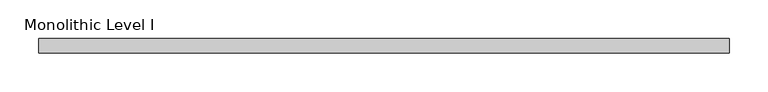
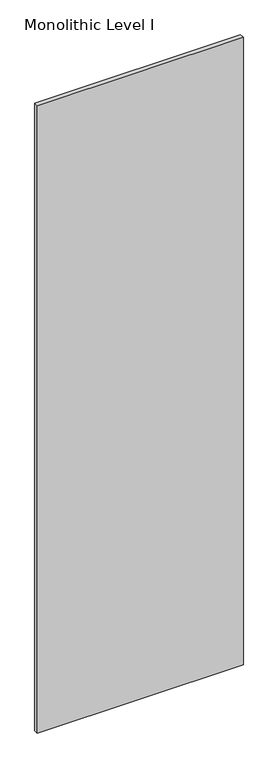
"""IFC4 building model written with IfcOpenShell, lengths in millimetres: proxy geometry, Panel-Fascia-Teknion-Altos-Standard : Monolithic Level I."""

import ifcopenshell
import ifcopenshell.guid

model = None  # the IFC model being written
_history = None  # IfcOwnerHistory: only IFC2X3 demands one
_inside = {}  # id of a spatial element -> (the spatial element, [elements in it])
_under = {}  # id of a project, library or spatial element -> (it, [spatial elements below it])
_declared = {}  # id of a project -> (the project, [libraries it declares])
_typed = {}  # id of a type object -> (the type object, [elements of that type])
_made_of = {}  # id of a material, layer set ... -> (it, [elements and type objects made of it])


def new_model(schema):
    """Start an empty IFC model of exactly this schema.

    Asked for "IFC4X3", IfcOpenShell would pick the latest addendum, in which some entities
    have other attributes; the version numbers below select the first issue.
    IFC2X3 requires an IfcOwnerHistory on every rooted entity: one is made here for all.
    """
    global model, _history
    if schema == "IFC4X3":
        model = ifcopenshell.file(schema_version=(4, 3, 0, 0))
    else:
        model = ifcopenshell.file(schema=schema)
    _inside.clear()
    _under.clear()
    _declared.clear()
    _typed.clear()
    _made_of.clear()
    _history = None
    if model.schema == "IFC2X3":
        org = make("IfcOrganization", Name="unknown")
        user = make(
            "IfcPersonAndOrganization",
            ThePerson=make("IfcPerson", FamilyName="unknown"),
            TheOrganization=org,
        )
        app = make(
            "IfcApplication",
            ApplicationDeveloper=org,
            Version="unknown",
            ApplicationFullName="unknown",
            ApplicationIdentifier="unknown",
        )
        _history = make(
            "IfcOwnerHistory",
            OwningUser=user,
            OwningApplication=app,
            ChangeAction="ADDED",
            CreationDate=0,
        )
    return model


def make(cls, **values):
    """One entity of the class cls with the attributes given. An attribute that is None is left unset."""
    return model.create_entity(
        cls, **{name: value for name, value in values.items() if value is not None}
    )


def rooted(cls, **values):
    """An entity with a GlobalId (a new one), such as an element, a storey or a relation."""
    return make(cls, GlobalId=ifcopenshell.guid.new(), OwnerHistory=_history, **values)


def si_unit(unit_type, name, prefix=None):
    """IfcSIUnit, for example si_unit("LENGTHUNIT", "METRE", prefix="MILLI")."""
    return make("IfcSIUnit", UnitType=unit_type, Prefix=prefix, Name=name)


def assignment(units):
    """IfcUnitAssignment: the units of a project."""
    return None if units is None else make("IfcUnitAssignment", Units=units)


def point(xyz):
    """IfcCartesianPoint."""
    return None if xyz is None else make("IfcCartesianPoint", Coordinates=xyz)


def direction(xyz):
    """IfcDirection."""
    return None if xyz is None else make("IfcDirection", DirectionRatios=xyz)


def frame(location, z_axis=None, x_axis=None):
    """IfcAxis2Placement3D, a coordinate frame: its origin and axes. An axis left out is left unset."""
    return make(
        "IfcAxis2Placement3D",
        Location=point(location),
        Axis=direction(z_axis),
        RefDirection=direction(x_axis),
    )


def origin():
    """The frame at (0, 0, 0) with its axes left unset."""
    return frame((0.0, 0.0, 0.0))


def place(relative_to, where):
    """IfcLocalPlacement: puts the frame where relative to a parent placement (None: the world)."""
    return make(
        "IfcLocalPlacement", PlacementRelTo=relative_to, RelativePlacement=where
    )


def context(
    kind, dimensions, precision=None, world=None, true_north=None, identifier=None
):
    """IfcGeometricRepresentationContext, for example the 3D "Model" context."""
    return make(
        "IfcGeometricRepresentationContext",
        ContextIdentifier=identifier,
        ContextType=kind,
        CoordinateSpaceDimension=dimensions,
        Precision=precision,
        WorldCoordinateSystem=world,
        TrueNorth=true_north,
    )


def project(units=None, contexts=None):
    """IfcProject with its units and contexts."""
    return rooted(
        "IfcProject",
        Name="project",
        RepresentationContexts=contexts,
        UnitsInContext=assignment(units),
    )


def spatial(cls, under=None, at=None, **own):
    """A site, building, storey or space (cls), placed at a placement, below another one or the project."""
    s = rooted(cls, ObjectPlacement=at, **own)
    if under is not None:
        _under.setdefault(under.id(), (under, []))[1].append(s)
    return s


def polyline(points):
    """IfcPolyline through the points."""
    return make("IfcPolyline", Points=[point(p) for p in points])


def outline(outer, holes=None, kind="AREA"):
    """IfcArbitraryClosedProfileDef: a profile drawn as a closed curve; with holes, ...WithVoids."""
    if holes is None:
        return make("IfcArbitraryClosedProfileDef", ProfileType=kind, OuterCurve=outer)
    return make(
        "IfcArbitraryProfileDefWithVoids",
        ProfileType=kind,
        OuterCurve=outer,
        InnerCurves=holes,
    )


def extrude(swept, where, along, depth):
    """IfcExtrudedAreaSolid: the profile swept, set in the frame where, extruded along a direction by depth."""
    return make(
        "IfcExtrudedAreaSolid",
        SweptArea=swept,
        Position=where,
        ExtrudedDirection=direction(along),
        Depth=depth,
    )


def shape(context_of_items, identifier, shape_type, items):
    """IfcShapeRepresentation: the items that make up one representation, for example the "Body"."""
    return make(
        "IfcShapeRepresentation",
        ContextOfItems=context_of_items,
        RepresentationIdentifier=identifier,
        RepresentationType=shape_type,
        Items=items,
    )


def source(mapping_origin, context_of_items, identifier, shape_type, items):
    """IfcRepresentationMap: a shape defined once, which mapped items show again and again."""
    return make(
        "IfcRepresentationMap",
        MappingOrigin=mapping_origin,
        MappedRepresentation=shape(context_of_items, identifier, shape_type, items),
    )


def transform(
    local_origin,
    x_axis=None,
    y_axis=None,
    z_axis=None,
    scale=None,
    scale2=None,
    scale3=None,
    uniform=True,
):
    """IfcCartesianTransformationOperator3D, or its non-uniform kind. x_axis, y_axis, z_axis: its Axis1, 2, 3."""
    if uniform:
        return make(
            "IfcCartesianTransformationOperator3D",
            Axis1=direction(x_axis),
            Axis2=direction(y_axis),
            LocalOrigin=point(local_origin),
            Scale=scale,
            Axis3=direction(z_axis),
        )
    return make(
        "IfcCartesianTransformationOperator3DnonUniform",
        Axis1=direction(x_axis),
        Axis2=direction(y_axis),
        LocalOrigin=point(local_origin),
        Scale=scale,
        Axis3=direction(z_axis),
        Scale2=scale2,
        Scale3=scale3,
    )


def mapped(mapping_source, mapping_target):
    """IfcMappedItem: shows the shape of a source again, moved by a transform."""
    return make(
        "IfcMappedItem", MappingSource=mapping_source, MappingTarget=mapping_target
    )


def made_of(thing, what):
    """Note that an element or type object is made of a material, layer set ...; save() writes the relation."""
    if what is not None:
        _made_of.setdefault(what.id(), (what, []))[1].append(thing)
    return thing


def element(
    cls,
    number,
    at=None,
    inside=None,
    cuts=None,
    type_object=None,
    material=None,
    context=None,
    identifier="Body",
    shape_type=None,
    held_by="IfcProductDefinitionShape",
    body=None,
    shapes=None,
    **own,
):
    """One element of the class cls, such as IfcWall. Its Tag is "e" and its number.

    at: its placement. inside: the storey or other place that contains it. cuts: it is an
    opening in that element (IfcRelVoidsElement). A single representation is given by context,
    identifier, shape_type and body (its items); several are given by shapes. held_by: the class
    of the entity that holds the representations. save() writes the other relations.
    """
    e = rooted(cls, Tag="e%d" % number, ObjectPlacement=at, **own)
    if body is not None:
        shapes = [shape(context, identifier, shape_type, body)]
    if shapes is not None:
        e.Representation = make(held_by, Representations=shapes)
    if inside is not None:
        _inside.setdefault(inside.id(), (inside, []))[1].append(e)
    if cuts is not None:
        rooted(
            "IfcRelVoidsElement", RelatingBuildingElement=cuts, RelatedOpeningElement=e
        )
    if type_object is not None:
        _typed.setdefault(type_object.id(), (type_object, []))[1].append(e)
    return made_of(e, material)


def aggregate(whole, parts):
    """IfcRelAggregates: a whole, such as a stair, and the parts it consists of."""
    return rooted("IfcRelAggregates", RelatingObject=whole, RelatedObjects=parts)


def save(model, path):
    """Write the relations noted so far, then the file.

    IfcRelAggregates (storeys below a building ...), IfcRelContainedInSpatialStructure (elements
    in a storey), IfcRelDefinesByType, IfcRelAssociatesMaterial and IfcRelDeclares: one each for
    every whole, place, type object, material and project.
    """
    for whole, parts in _under.values():
        aggregate(whole, parts)
    for where, things in _inside.values():
        rooted(
            "IfcRelContainedInSpatialStructure",
            RelatedElements=things,
            RelatingStructure=where,
        )
    for kind, things in _typed.values():
        rooted("IfcRelDefinesByType", RelatedObjects=things, RelatingType=kind)
    for what, things in _made_of.values():
        rooted("IfcRelAssociatesMaterial", RelatedObjects=things, RelatingMaterial=what)
    for by, libraries in _declared.values():
        rooted("IfcRelDeclares", RelatingContext=by, RelatedDefinitions=libraries)
    model.write(path)


def monolithic_level_i_8bdc6454(model_context):
    return source(origin(), model_context, "Body", "SweptSolid", [
        extrude(outline(polyline([(447.0356344, 9.525), (447.0356344, -9.525), (-447.0356344, -9.525), (-447.0356344, 9.525), (447.0356344, 9.525)])), frame((0.0, 0.0, 3.175), z_axis=(0.0, 0.0, 1.0), x_axis=(1.0, 0.0, 0.0)), (0.0, 0.0, 1.0), 2877.693),
    ])


if __name__ == "__main__":
    model = new_model("IFC4")
    model_context = context("Model", 3, world=origin())
    ifc_project = project(units=[si_unit("LENGTHUNIT", "METRE", prefix="MILLI")], contexts=[model_context])
    site = spatial("IfcSite", under=ifc_project)
    building = spatial("IfcBuilding", under=site)
    placement = place(None, origin())
    monolithic_level_i_shape = monolithic_level_i_8bdc6454(model_context)
    element("IfcBuildingElementProxy", 1, Name="Panel-Fascia-Teknion-Altos-Standard : Monolithic Level I", ObjectType="Panel-Fascia-Teknion-Altos-Standard : Monolithic Level I", at=placement, inside=building, context=model_context, shape_type="MappedRepresentation", body=[
        mapped(monolithic_level_i_shape, transform((0.0, 0.0, 0.0), x_axis=(1.0, 0.0, 0.0), y_axis=(0.0, 1.0, 0.0), z_axis=(0.0, 0.0, 1.0))),
    ])
    save(model, "model.ifc")
